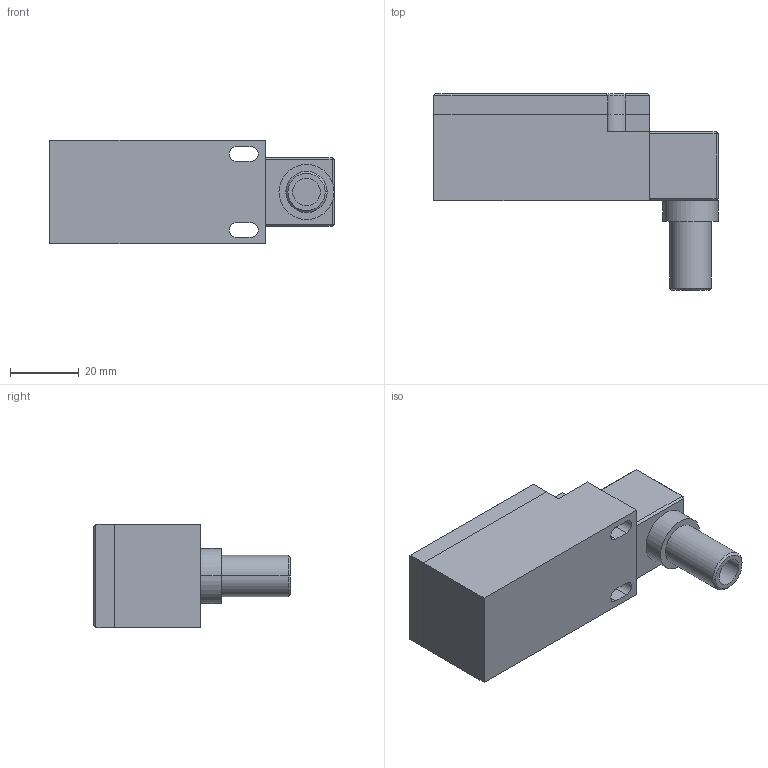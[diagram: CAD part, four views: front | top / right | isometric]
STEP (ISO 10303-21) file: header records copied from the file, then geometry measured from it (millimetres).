
FILE_DESCRIPTION (( 'STEP AP203' ), '1' );
FILE_NAME ('084.603.001.STEP', '2018-03-09T14:18:33', ( '' ), ( '' ), 'SwSTEP 2.0', 'SolidWorks 2016', '' );
FILE_SCHEMA (( 'CONFIG_CONTROL_DESIGN' ));
Length unit declared in the file: millimetre
Products named in the file (1): 084.603.001
Bounding box: 82.5 x 57 x 30 mm (x, y, z)
Volume: 64986.5 mm3; surface area: 17872 mm2
Topology: 5 solids, 5 shells, 74 faces, 168 edges, 104 vertices
Faces by surface type: plane 56, cylinder 14, cone 4
Entity records: 2113 total; most frequent: DIRECTION 350, CARTESIAN_POINT 347, ORIENTED_EDGE 336, EDGE_CURVE 168, LINE 136, VECTOR 136, AXIS2_PLACEMENT_3D 107, VERTEX_POINT 104
